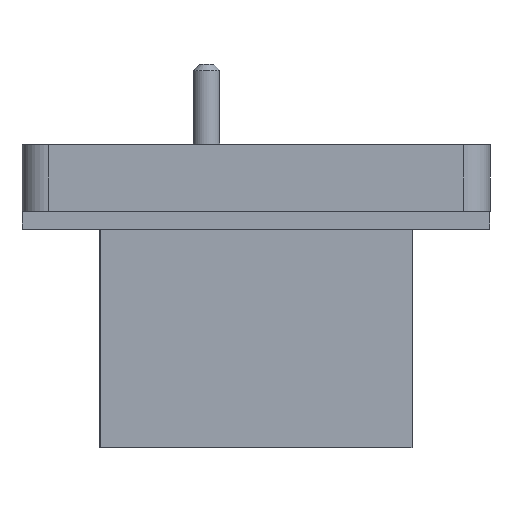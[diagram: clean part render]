
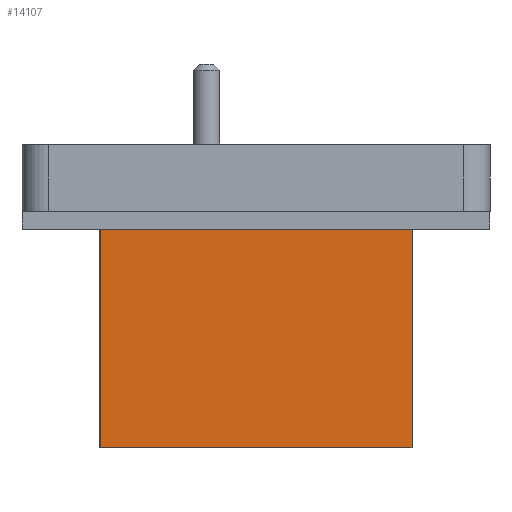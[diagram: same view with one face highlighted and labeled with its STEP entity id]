
A CAD part, left-side view. The second image highlights one B-rep face of the part: STEP entity #14107.
In plain terms, the highlighted planar face has unit normal (-1, 0, 0).
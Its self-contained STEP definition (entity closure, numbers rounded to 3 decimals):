
#7728=CARTESIAN_POINT('',(-42.75,17.5,2.));
#7729=VERTEX_POINT('',#7728);
#7736=CARTESIAN_POINT('',(-42.75,-17.5,2.));
#7737=VERTEX_POINT('',#7736);
#7738=CARTESIAN_POINT('',(-42.75,17.5,2.));
#7739=DIRECTION('',(0.0,-1.0,0.0));
#7740=VECTOR('',#7739,35.0);
#7741=LINE('',#7738,#7740);
#7742=EDGE_CURVE('',#7729,#7737,#7741,.T.);
#14066=CARTESIAN_POINT('',(-42.75,-17.5,-24.5));
#14067=VERTEX_POINT('',#14066);
#14068=CARTESIAN_POINT('',(-42.75,-17.5,-24.5));
#14069=DIRECTION('',(0.0,0.0,1.0));
#14070=VECTOR('',#14069,26.5);
#14071=LINE('',#14068,#14070);
#14072=EDGE_CURVE('',#14067,#7737,#14071,.T.);
#14084=CARTESIAN_POINT('',(-42.75,-17.5,-24.5));
#14085=DIRECTION('',(-1.0,0.0,0.0));
#14086=DIRECTION('',(0.0,0.0,1.0));
#14087=AXIS2_PLACEMENT_3D('',#14084,#14085,#14086);
#14088=PLANE('',#14087);
#14089=ORIENTED_EDGE('',*,*,#7742,.F.);
#14090=CARTESIAN_POINT('',(-42.75,17.5,-24.5));
#14091=VERTEX_POINT('',#14090);
#14092=CARTESIAN_POINT('',(-42.75,17.5,-24.5));
#14093=DIRECTION('',(0.0,0.0,1.0));
#14094=VECTOR('',#14093,26.5);
#14095=LINE('',#14092,#14094);
#14096=EDGE_CURVE('',#14091,#7729,#14095,.T.);
#14097=ORIENTED_EDGE('',*,*,#14096,.F.);
#14098=CARTESIAN_POINT('',(-42.75,17.5,-24.5));
#14099=DIRECTION('',(0.0,-1.0,0.0));
#14100=VECTOR('',#14099,35.0);
#14101=LINE('',#14098,#14100);
#14102=EDGE_CURVE('',#14091,#14067,#14101,.T.);
#14103=ORIENTED_EDGE('',*,*,#14102,.T.);
#14104=ORIENTED_EDGE('',*,*,#14072,.T.);
#14105=EDGE_LOOP('',(#14089,#14097,#14103,#14104));
#14106=FACE_OUTER_BOUND('',#14105,.T.);
#14107=ADVANCED_FACE('',(#14106),#14088,.T.);
